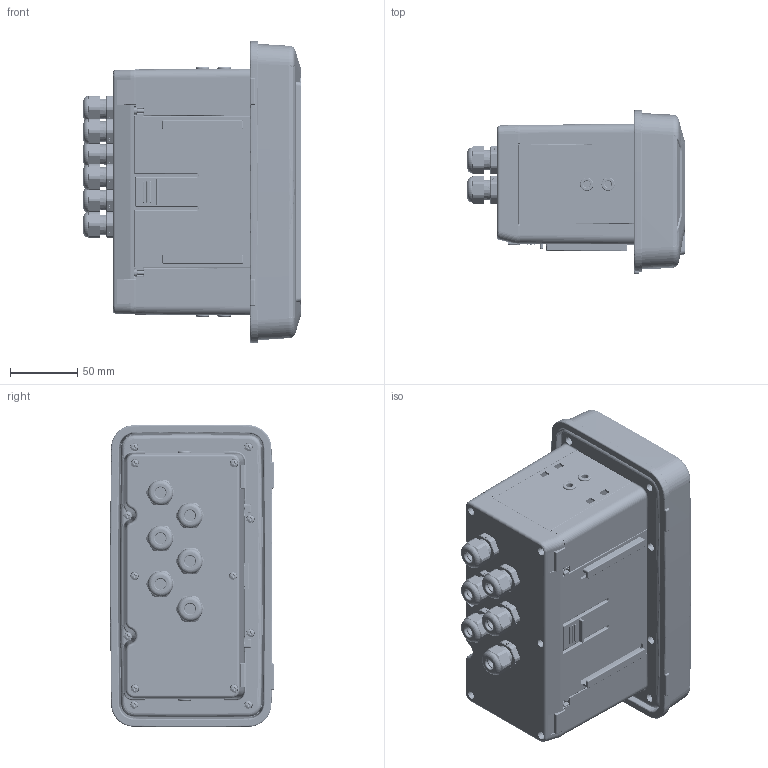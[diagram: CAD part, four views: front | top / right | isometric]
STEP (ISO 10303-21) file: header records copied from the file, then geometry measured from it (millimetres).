
FILE_DESCRIPTION((''),'1');
FILE_NAME('EILE_version-P-X.step','2023-01-18T15:44:02',(''),(''),'','','');
FILE_SCHEMA(('AUTOMOTIVE_DESIGN { 1 0 10303 214 1 1 1 1 }'));
Length unit declared in the file: metre
Products named in the file (21): EILE version-P-X; EILE cover 01; EILE seal 01; EILE body 01; EILE screw 01; EILE part 02; EILE screw 02; EILE part 03; EILE part 04; EILE screw 03; EILE seal 02; EILE cover 03; EILE cable gland 01; EILE cable gland 02; EILE seal 03; EILE nut 01
Assembly tree (52 placements, depth 3):
  EILE version-P-X
    EILE cover 01
    EILE seal 01
    EILE body 01
    EILE screw 01  x8
    EILE part 02
    EILE screw 02  x4
    EILE part 03
    EILE part 04
    EILE screw 03  x8
    EILE seal 02
    EILE cover 03
    EILE cable gland 01
      EILE cable gland 02
      EILE seal 03
      EILE nut 01
    EILE cable gland 01
      EILE cable gland 02
      EILE seal 03
      EILE nut 01
    EILE cable gland 01
      EILE cable gland 02
      EILE seal 03
      EILE nut 01
    EILE cable gland 01
      EILE cable gland 02
      EILE seal 03
      EILE nut 01
    EILE cable gland 01
      EILE cable gland 02
      EILE seal 03
      EILE nut 01
    EILE cable gland 01
      EILE cable gland 02
      EILE seal 03
      EILE nut 01
Bounding box: 161.7 x 121.93 x 225.28 mm (x, y, z)
Volume: 504759.7 mm3; surface area: 468317.9 mm2
Topology: 46 solids, 46 shells, 7272 faces, 18899 edges, 12056 vertices
Faces by surface type: plane 3397, cylinder 2317, torus 584, cone 458, sphere 197, bspline 190, revolution 129
Entity records: 142644 total; most frequent: CARTESIAN_POINT 44448, DIRECTION 21342, ORIENTED_EDGE 20212, EDGE_CURVE 10106, AXIS2_PLACEMENT_3D 8117, VERTEX_POINT 6350, LINE 4979, VECTOR 4979
